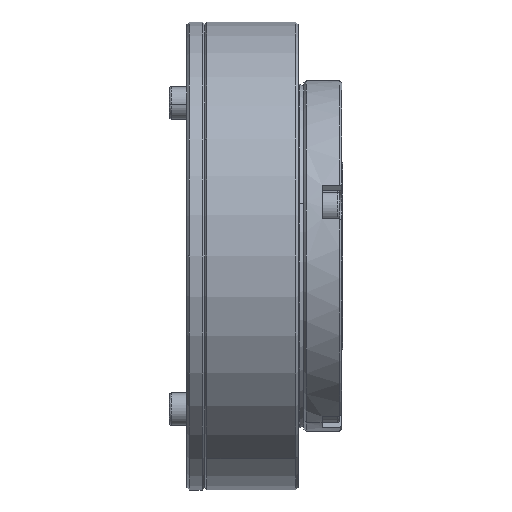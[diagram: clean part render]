
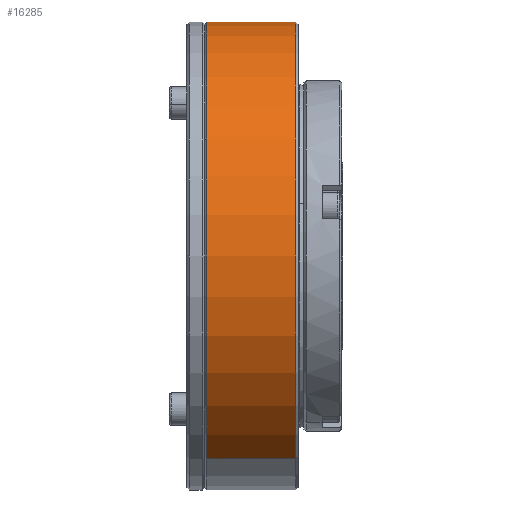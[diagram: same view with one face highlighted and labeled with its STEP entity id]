
A CAD part, front view. The second image highlights one B-rep face of the part: STEP entity #16285.
In plain terms, the highlighted cylindrical face has radius 40 mm (diameter 80 mm), a partial arc.
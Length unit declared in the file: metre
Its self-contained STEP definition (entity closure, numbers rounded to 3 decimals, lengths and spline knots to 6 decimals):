
#186 = FACE_OUTER_BOUND ( 'NONE', #12355, .T. ) ;
#832 = VERTEX_POINT ( 'NONE', #4345 ) ;
#1713 = EDGE_CURVE ( 'NONE', #832, #23948, #12500, .T. ) ;
#2201 = CYLINDRICAL_SURFACE ( 'NONE', #20089, 0.04 ) ;
#4345 = CARTESIAN_POINT ( 'NONE',  ( 0.0186, -0.02, -0.034641 ) ) ;
#5405 = LINE ( 'NONE', #20151, #10811 ) ;
#5662 = LINE ( 'NONE', #23999, #31856 ) ;
#7498 = ORIENTED_EDGE ( 'NONE', *, *, #13277, .T. ) ;
#8222 = AXIS2_PLACEMENT_3D ( 'NONE', #13596, #21273, #8593 ) ;
#8278 = VERTEX_POINT ( 'NONE', #26298 ) ;
#8339 = CARTESIAN_POINT ( 'NONE',  ( 0.0034, 0.02, 0.034641 ) ) ;
#8593 = DIRECTION ( 'NONE',  ( 0., 0.5, 0.866 ) ) ;
#8840 = DIRECTION ( 'NONE',  ( -1., 0., 0. ) ) ;
#9182 = ORIENTED_EDGE ( 'NONE', *, *, #17524, .F. ) ;
#10811 = VECTOR ( 'NONE', #30915, 1. ) ;
#11982 = AXIS2_PLACEMENT_3D ( 'NONE', #29252, #31431, #14091 ) ;
#12355 = EDGE_LOOP ( 'NONE', ( #9182, #26899, #19247, #7498, #18158 ) ) ;
#12500 = CIRCLE ( 'NONE', #8222, 0.04 ) ;
#12681 = CIRCLE ( 'NONE', #28094, 0.04 ) ;
#12844 = DIRECTION ( 'NONE',  ( 1., 0., 0. ) ) ;
#13277 = EDGE_CURVE ( 'NONE', #29183, #8278, #30601, .T. ) ;
#13596 = CARTESIAN_POINT ( 'NONE',  ( 0.0186, 0., 0. ) ) ;
#14091 = DIRECTION ( 'NONE',  ( 0., 0.5, 0.866 ) ) ;
#16285 = ADVANCED_FACE ( 'NONE', ( #186 ), #2201, .T. ) ;
#17218 = VERTEX_POINT ( 'NONE', #20764 ) ;
#17524 = EDGE_CURVE ( 'NONE', #832, #17218, #5662, .T. ) ;
#17679 = CARTESIAN_POINT ( 'NONE',  ( 0.003, 0., 0. ) ) ;
#18158 = ORIENTED_EDGE ( 'NONE', *, *, #26963, .T. ) ;
#19247 = ORIENTED_EDGE ( 'NONE', *, *, #21246, .T. ) ;
#20044 = DIRECTION ( 'NONE',  ( 0., 0.5, 0.866 ) ) ;
#20089 = AXIS2_PLACEMENT_3D ( 'NONE', #17679, #30199, #20044 ) ;
#20151 = CARTESIAN_POINT ( 'NONE',  ( 0.003, 0.02, 0.034641 ) ) ;
#20680 = DIRECTION ( 'NONE',  ( 0., 0.5, 0.866 ) ) ;
#20764 = CARTESIAN_POINT ( 'NONE',  ( 0.0034, -0.02, -0.034641 ) ) ;
#21246 = EDGE_CURVE ( 'NONE', #23948, #29183, #5405, .T. ) ;
#21273 = DIRECTION ( 'NONE',  ( -1., 0., 0. ) ) ;
#21859 = CARTESIAN_POINT ( 'NONE',  ( 0.0186, 0.02, 0.034641 ) ) ;
#23948 = VERTEX_POINT ( 'NONE', #21859 ) ;
#23999 = CARTESIAN_POINT ( 'NONE',  ( 0.003, -0.02, -0.034641 ) ) ;
#26298 = CARTESIAN_POINT ( 'NONE',  ( 0.0034, -0.034641, 0.02 ) ) ;
#26899 = ORIENTED_EDGE ( 'NONE', *, *, #1713, .T. ) ;
#26963 = EDGE_CURVE ( 'NONE', #8278, #17218, #12681, .T. ) ;
#28094 = AXIS2_PLACEMENT_3D ( 'NONE', #30521, #12844, #20680 ) ;
#29183 = VERTEX_POINT ( 'NONE', #8339 ) ;
#29252 = CARTESIAN_POINT ( 'NONE',  ( 0.0034, 0., 0. ) ) ;
#30199 = DIRECTION ( 'NONE',  ( -1., 0., 0. ) ) ;
#30521 = CARTESIAN_POINT ( 'NONE',  ( 0.0034, 0., 0. ) ) ;
#30601 = CIRCLE ( 'NONE', #11982, 0.04 ) ;
#30915 = DIRECTION ( 'NONE',  ( -1., 0., 0. ) ) ;
#31431 = DIRECTION ( 'NONE',  ( 1., 0., 0. ) ) ;
#31856 = VECTOR ( 'NONE', #8840, 1. ) ;
